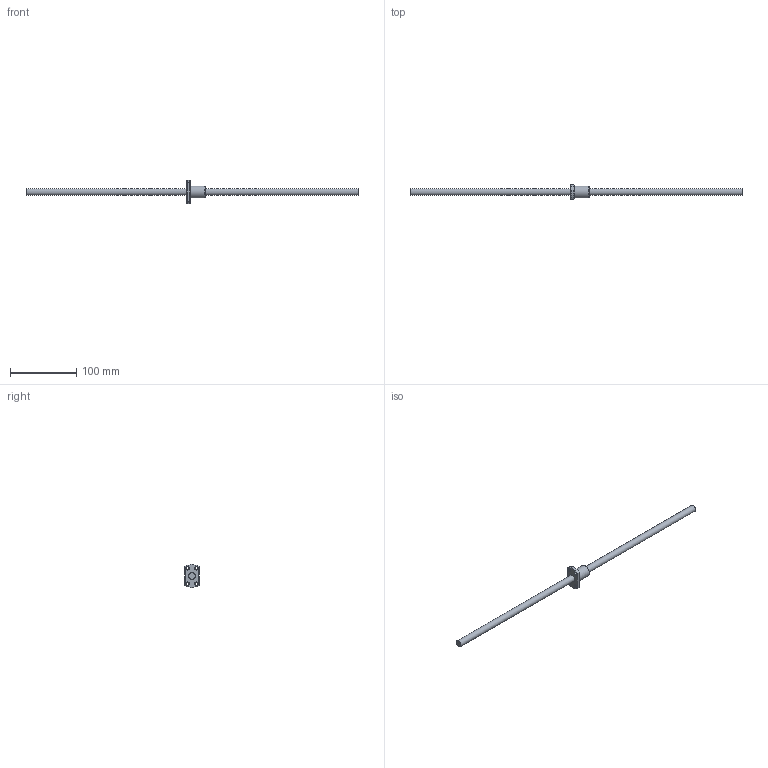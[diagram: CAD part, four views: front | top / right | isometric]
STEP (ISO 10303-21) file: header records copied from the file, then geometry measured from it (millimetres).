
FILE_DESCRIPTION (( 'STEP AP203' ), '1' );
FILE_NAME ('SFK01002.step', '2024-05-30T08:10:52', ( '' ), ( '' ), 'SwSTEP 2.0', 'SolidWorks 2022', '' );
FILE_SCHEMA (( 'CONFIG_CONTROL_DESIGN' ));
Length unit declared in the file: millimetre
Products named in the file (1): SFK01002
Bounding box: 500 x 22 x 35 mm (x, y, z)
Volume: 45828.8 mm3; surface area: 19928.7 mm2
Topology: 2 solids, 2 shells, 33 faces, 79 edges, 51 vertices
Faces by surface type: plane 11, cylinder 9, cone 8, torus 5
Full cylindrical faces by diameter (mm): 4.5 x4, 10 x1, 10.7 x1, 18 x1
Entity records: 927 total; most frequent: CARTESIAN_POINT 196, DIRECTION 142, ORIENTED_EDGE 102, AXIS2_PLACEMENT_3D 65, EDGE_LOOP 60, EDGE_CURVE 51, FACE_OUTER_BOUND 41, VERTEX_POINT 39
